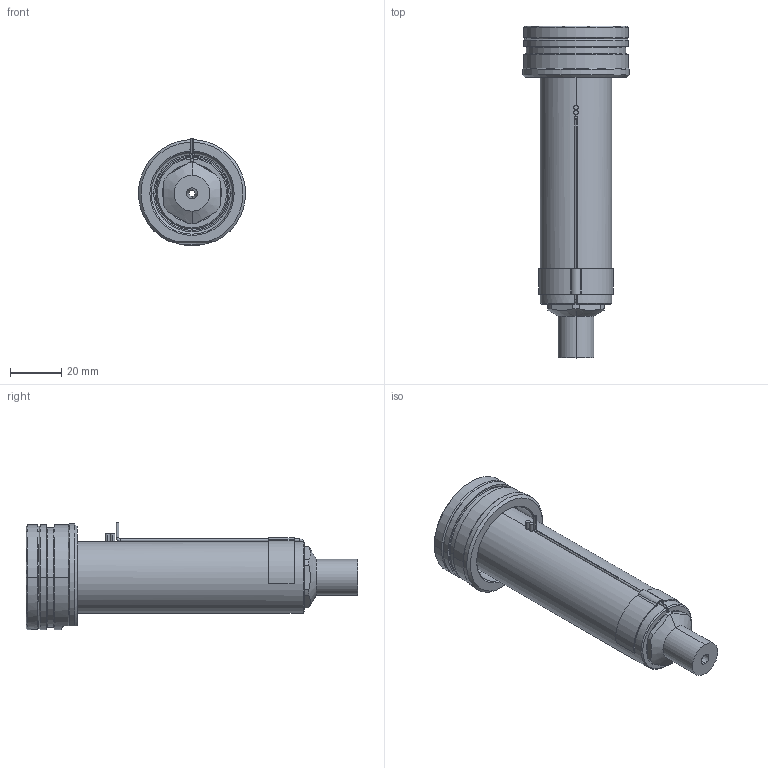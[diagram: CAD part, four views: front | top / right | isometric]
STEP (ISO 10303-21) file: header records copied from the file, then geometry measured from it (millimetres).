
FILE_DESCRIPTION((''),'2;1');
FILE_NAME('EO10_VG-FBE_WR_100_SW','2024-02-19T14:01:38',('sundharh'),(''),'CREO PARAMETRIC BY PTC INC, 2023154','CREO PARAMETRIC BY PTC INC, 2023154','');
FILE_SCHEMA(('CONFIG_CONTROL_DESIGN'));
Length unit declared in the file: millimetre
Products named in the file (1): EO10_VG-FBE_WR_100_SW
Bounding box: 41.85 x 130 x 42.02 mm (x, y, z)
Volume: 73789.7 mm3; surface area: 21680.4 mm2
Topology: 1 solids, 1 shells, 195 faces, 484 edges, 295 vertices
Faces by surface type: cylinder 71, plane 47, cone 39, torus 23, bspline 13, sphere 2
Entity records: 6735 total; most frequent: CARTESIAN_POINT 2011, DIRECTION 1045, ORIENTED_EDGE 964, EDGE_CURVE 482, AXIS2_PLACEMENT_3D 437, VERTEX_POINT 295, CIRCLE 255, EDGE_LOOP 211
